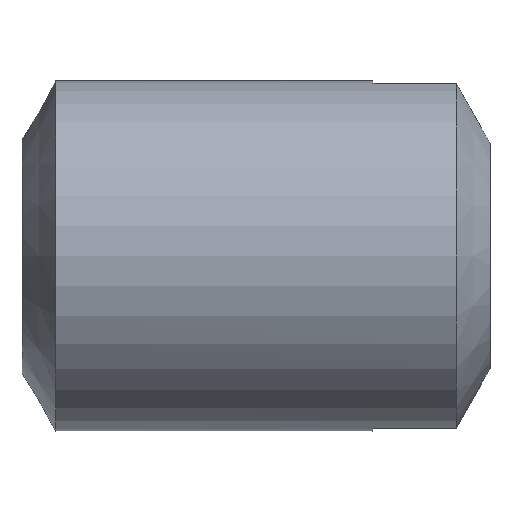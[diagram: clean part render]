
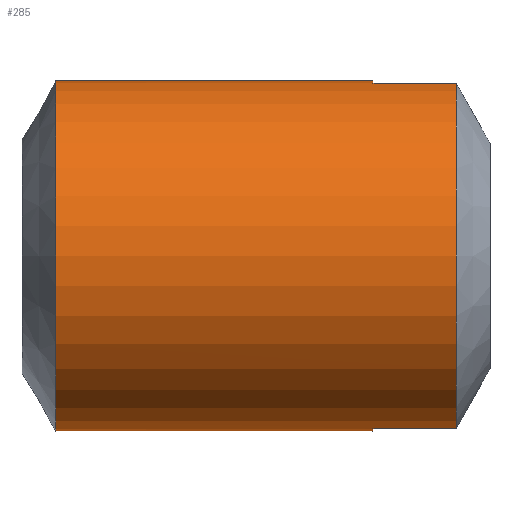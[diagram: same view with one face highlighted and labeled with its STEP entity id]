
A CAD part, front view. The second image highlights one B-rep face of the part: STEP entity #285.
In plain terms, the highlighted cylindrical face has radius 4.5 mm (diameter 9 mm), a full revolution.
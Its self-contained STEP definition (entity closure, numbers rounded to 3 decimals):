
#20=FACE_BOUND('',#67,.T.);
#26=CYLINDRICAL_SURFACE('',#309,4.5);
#28=CIRCLE('',#303,4.5);
#30=CIRCLE('',#306,4.5);
#32=CIRCLE('',#310,4.5);
#33=CIRCLE('',#311,4.5);
#34=CIRCLE('',#312,4.5);
#50=FACE_OUTER_BOUND('',#66,.T.);
#66=EDGE_LOOP('',(#222));
#67=EDGE_LOOP('',(#223,#224,#225,#226,#227,#228,#229,#230));
#90=LINE('',#420,#106);
#94=LINE('',#437,#110);
#98=LINE('',#454,#114);
#103=LINE('',#479,#119);
#106=VECTOR('',#336,2.134);
#110=VECTOR('',#342,2.134);
#114=VECTOR('',#348,2.134);
#119=VECTOR('',#367,2.134);
#122=VERTEX_POINT('',#418);
#123=VERTEX_POINT('',#419);
#128=VERTEX_POINT('',#435);
#129=VERTEX_POINT('',#436);
#134=VERTEX_POINT('',#452);
#135=VERTEX_POINT('',#453);
#140=VERTEX_POINT('',#472);
#142=VERTEX_POINT('',#478);
#146=VERTEX_POINT('',#492);
#150=EDGE_CURVE('',#122,#123,#90,.T.);
#156=EDGE_CURVE('',#128,#129,#94,.T.);
#162=EDGE_CURVE('',#134,#135,#98,.T.);
#168=EDGE_CURVE('',#129,#122,#28,.T.);
#170=EDGE_CURVE('',#140,#134,#30,.T.);
#173=EDGE_CURVE('',#142,#140,#103,.T.);
#178=EDGE_CURVE('',#146,#146,#32,.T.);
#179=EDGE_CURVE('',#135,#128,#33,.T.);
#180=EDGE_CURVE('',#123,#142,#34,.T.);
#222=ORIENTED_EDGE('',*,*,#178,.F.);
#223=ORIENTED_EDGE('',*,*,#173,.T.);
#224=ORIENTED_EDGE('',*,*,#170,.T.);
#225=ORIENTED_EDGE('',*,*,#162,.T.);
#226=ORIENTED_EDGE('',*,*,#179,.T.);
#227=ORIENTED_EDGE('',*,*,#156,.T.);
#228=ORIENTED_EDGE('',*,*,#168,.T.);
#229=ORIENTED_EDGE('',*,*,#150,.T.);
#230=ORIENTED_EDGE('',*,*,#180,.T.);
#285=ADVANCED_FACE('',(#50,#20),#26,.T.);
#303=AXIS2_PLACEMENT_3D('',#469,#354,#355);
#306=AXIS2_PLACEMENT_3D('',#473,#360,#361);
#309=AXIS2_PLACEMENT_3D('',#491,#370,#371);
#310=AXIS2_PLACEMENT_3D('',#493,#372,#373);
#311=AXIS2_PLACEMENT_3D('',#494,#374,#375);
#312=AXIS2_PLACEMENT_3D('',#495,#376,#377);
#336=DIRECTION('',(1.,0.,0.));
#342=DIRECTION('',(-1.,0.,0.));
#348=DIRECTION('',(1.,0.,0.));
#354=DIRECTION('center_axis',(-1.,0.,0.));
#355=DIRECTION('ref_axis',(0.,1.,0.));
#360=DIRECTION('center_axis',(-1.,0.,0.));
#361=DIRECTION('ref_axis',(0.,1.,0.));
#367=DIRECTION('',(-1.,0.,0.));
#370=DIRECTION('center_axis',(-1.,0.,0.));
#371=DIRECTION('ref_axis',(0.,1.,0.));
#372=DIRECTION('center_axis',(-1.,0.,0.));
#373=DIRECTION('ref_axis',(0.,1.,0.));
#374=DIRECTION('center_axis',(-1.,0.,0.));
#375=DIRECTION('ref_axis',(0.,1.,0.));
#376=DIRECTION('center_axis',(-1.,0.,0.));
#377=DIRECTION('ref_axis',(0.,1.,0.));
#418=CARTESIAN_POINT('',(9.,-0.8,-4.428));
#419=CARTESIAN_POINT('',(11.134,-0.8,-4.428));
#420=CARTESIAN_POINT('',(6.,-0.8,-4.428));
#435=CARTESIAN_POINT('',(11.134,0.8,-4.428));
#436=CARTESIAN_POINT('',(9.,0.8,-4.428));
#437=CARTESIAN_POINT('',(6.,0.8,-4.428));
#452=CARTESIAN_POINT('',(9.,0.8,4.428));
#453=CARTESIAN_POINT('',(11.134,0.8,4.428));
#454=CARTESIAN_POINT('',(6.,0.8,4.428));
#469=CARTESIAN_POINT('Origin',(9.,0.,0.));
#472=CARTESIAN_POINT('',(9.,-0.8,4.428));
#473=CARTESIAN_POINT('Origin',(9.,0.,0.));
#478=CARTESIAN_POINT('',(11.134,-0.8,4.428));
#479=CARTESIAN_POINT('',(6.,-0.8,4.428));
#491=CARTESIAN_POINT('Origin',(6.,0.,0.));
#492=CARTESIAN_POINT('',(0.866,4.5,0.));
#493=CARTESIAN_POINT('Origin',(0.866,0.,0.));
#494=CARTESIAN_POINT('Origin',(11.134,0.,0.));
#495=CARTESIAN_POINT('Origin',(11.134,0.,0.));
